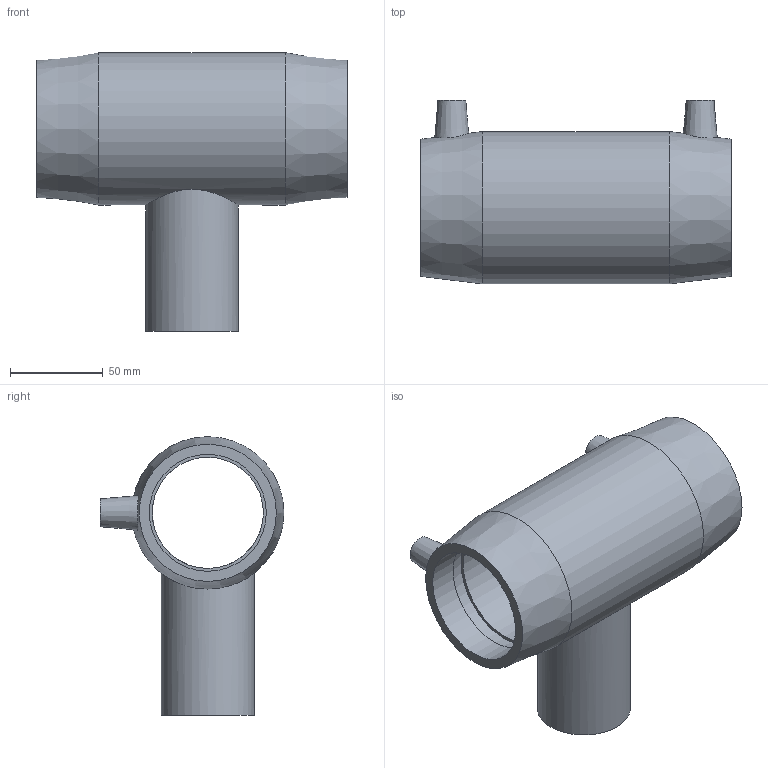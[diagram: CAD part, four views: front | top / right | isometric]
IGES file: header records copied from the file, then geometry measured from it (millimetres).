
Global section: file name: 491404063050.ipt; native system: Autodesk Inventor 2015; preprocessor: unknown; author: KIM; date: 20171106.093847; units: millimetre
Bounding box: 167 x 99 x 150 mm (x, y, z)
Volume: 382780.7 mm3; surface area: 100648.8 mm2
Topology: 1 solids, 1 shells, 31 faces, 72 edges, 52 vertices
Faces by surface type: plane 13, revolution 10, cylinder 4, cone 4
Full cylindrical faces by diameter (mm): 4 x2, 50 x1, 82 x1
